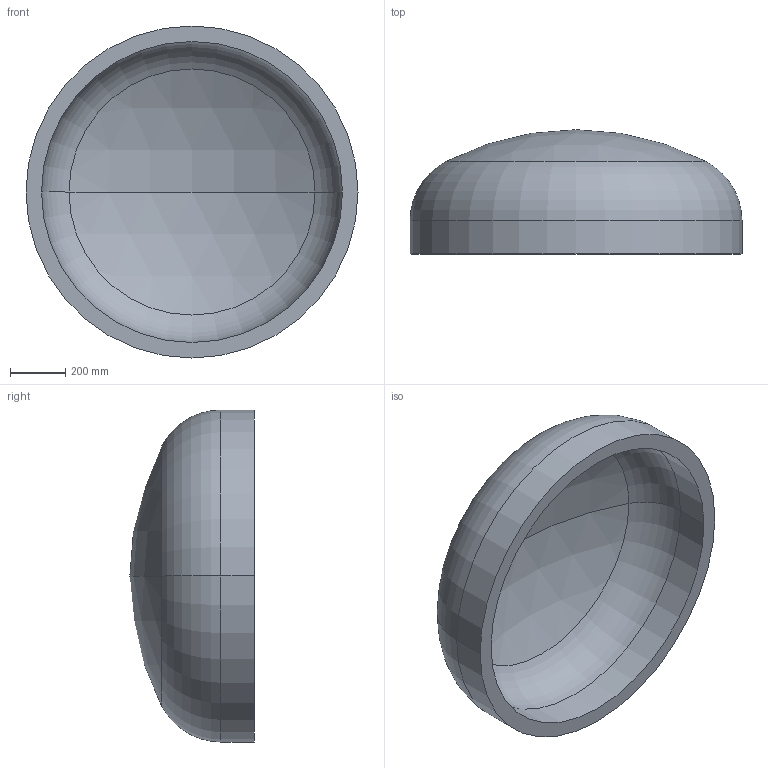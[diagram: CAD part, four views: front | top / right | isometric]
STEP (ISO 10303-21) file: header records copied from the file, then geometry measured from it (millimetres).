
FILE_DESCRIPTION (( 'STEP AP203' ), '1' );
FILE_NAME ('DIN 28013 Korbbogenform_-_Boden DIN 28013 - 1200 x 120 - I - s=56.step', '2016-07-01T09:31:49', ( '' ), ( '' ), 'SwSTEP 2.0', 'SolidWorks 2013', '' );
FILE_SCHEMA (( 'CONFIG_CONTROL_DESIGN' ));
Length unit declared in the file: millimetre
Products named in the file (1): DIN 28013 Korbbogenform_-_Boden DIN 28013 - 1200 x 120 - I - s=56
Bounding box: 1200 x 449.16 x 1200 mm (x, y, z)
Volume: 106767939.1 mm3; surface area: 4020970.8 mm2
Topology: 1 solids, 1 shells, 13 faces, 24 edges, 14 vertices
Faces by surface type: torus 4, cylinder 4, sphere 4, plane 1
Entity records: 407 total; most frequent: DIRECTION 72, CARTESIAN_POINT 52, ORIENTED_EDGE 48, AXIS2_PLACEMENT_3D 34, EDGE_CURVE 24, CIRCLE 20, VERTEX_POINT 14, EDGE_LOOP 14
